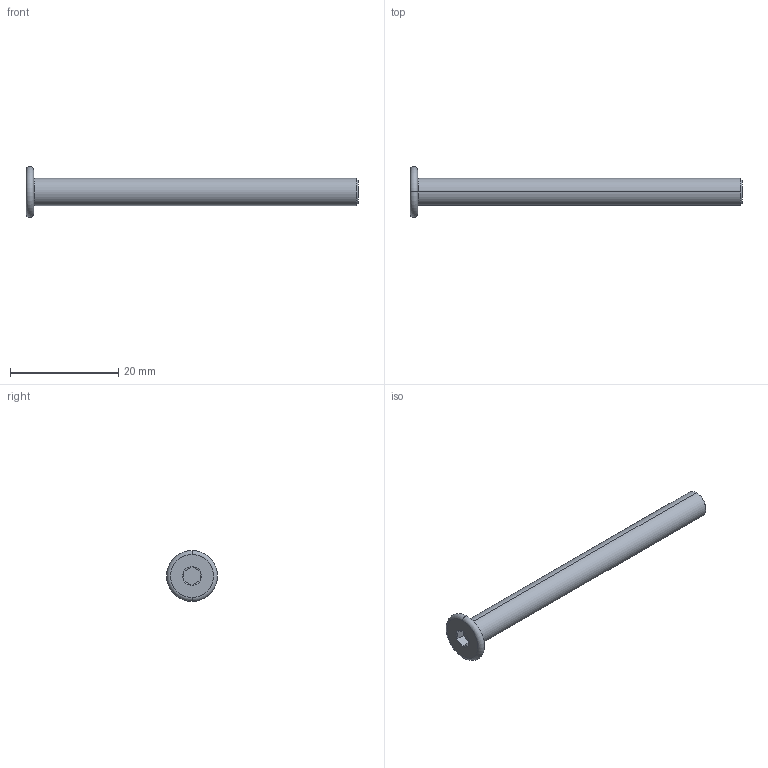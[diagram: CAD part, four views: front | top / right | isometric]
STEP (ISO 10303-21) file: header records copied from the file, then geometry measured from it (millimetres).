
FILE_DESCRIPTION (( 'STEP AP203' ), '1' );
FILE_NAME ('LGD-304M-M5x60.STEP', '2026-08-13T12:31:02', ( '' ), ( '' ), 'SwSTEP 2.0', 'SolidWorks 2020', '' );
FILE_SCHEMA (( 'CONFIG_CONTROL_DESIGN' ));
Length unit declared in the file: millimetre
Products named in the file (1): LGD-304M-M5x60
Bounding box: 61.4 x 9.4 x 9.4 mm (x, y, z)
Volume: 1255.3 mm3; surface area: 1118.2 mm2
Topology: 1 solids, 1 shells, 24 faces, 44 edges, 24 vertices
Faces by surface type: plane 10, cone 8, torus 4, cylinder 2
Entity records: 673 total; most frequent: CARTESIAN_POINT 119, DIRECTION 110, ORIENTED_EDGE 88, AXIS2_PLACEMENT_3D 47, EDGE_CURVE 44, EDGE_LOOP 26, ADVANCED_FACE 24, VERTEX_POINT 24
